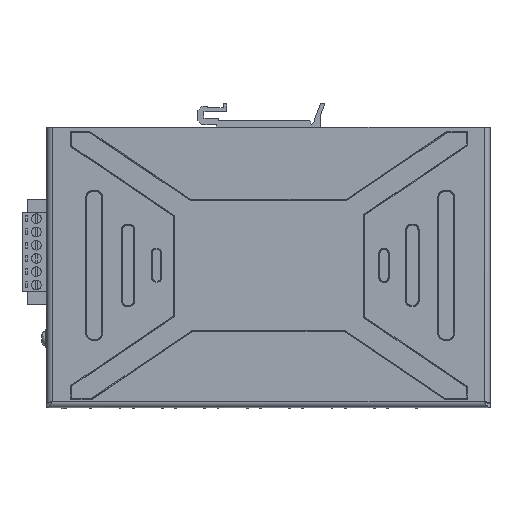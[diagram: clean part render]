
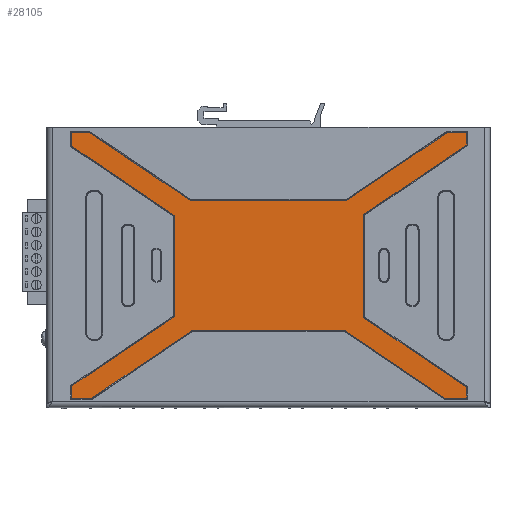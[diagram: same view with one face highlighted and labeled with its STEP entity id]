
A CAD part, top view. The second image highlights one B-rep face of the part: STEP entity #28105.
In plain terms, the highlighted planar face has unit normal (0, 0, 1).
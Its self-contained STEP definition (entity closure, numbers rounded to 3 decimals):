
#4988=DIRECTION('',(-1.,0.,0.));
#4989=VECTOR('',#4988,58.338);
#4990=CARTESIAN_POINT('',(114.169,29.637,-0.5));
#4991=LINE('',#4990,#4989);
#4992=DIRECTION('',(-0.829,-0.56,0.));
#4993=VECTOR('',#4992,46.518);
#4994=CARTESIAN_POINT('',(55.831,29.637,-0.5));
#4995=LINE('',#4994,#4993);
#4996=DIRECTION('',(-1.,0.,0.));
#4997=VECTOR('',#4996,7.645);
#4998=CARTESIAN_POINT('',(17.283,3.6,-0.5));
#4999=LINE('',#4998,#4997);
#5000=DIRECTION('',(0.,1.,0.));
#5001=VECTOR('',#5000,4.657);
#5002=CARTESIAN_POINT('',(9.637,3.6,-0.5));
#5003=LINE('',#5002,#5001);
#5004=DIRECTION('',(0.829,0.56,0.));
#5005=VECTOR('',#5004,47.643);
#5006=CARTESIAN_POINT('',(9.637,8.257,-0.5));
#5007=LINE('',#5006,#5005);
#5008=DIRECTION('',(0.,1.,0.));
#5009=VECTOR('',#5008,38.653);
#5010=CARTESIAN_POINT('',(49.118,34.924,-0.5));
#5011=LINE('',#5010,#5009);
#5012=DIRECTION('',(-0.829,0.56,0.));
#5013=VECTOR('',#5012,47.643);
#5014=CARTESIAN_POINT('',(49.118,73.576,-0.5));
#5015=LINE('',#5014,#5013);
#5016=DIRECTION('',(0.,1.,0.));
#5017=VECTOR('',#5016,5.228);
#5018=CARTESIAN_POINT('',(9.637,100.243,-0.5));
#5019=LINE('',#5018,#5017);
#5020=DIRECTION('',(1.,0.,0.));
#5021=VECTOR('',#5020,6.8);
#5022=CARTESIAN_POINT('',(9.637,105.472,-0.5));
#5023=LINE('',#5022,#5021);
#5024=DIRECTION('',(0.829,-0.56,0.));
#5025=VECTOR('',#5024,46.517);
#5026=CARTESIAN_POINT('',(16.438,105.472,-0.5));
#5027=LINE('',#5026,#5025);
#5028=DIRECTION('',(1.,0.,0.));
#5029=VECTOR('',#5028,60.03);
#5030=CARTESIAN_POINT('',(54.985,79.434,-0.5));
#5031=LINE('',#5030,#5029);
#5032=DIRECTION('',(0.829,0.56,0.));
#5033=VECTOR('',#5032,46.517);
#5034=CARTESIAN_POINT('',(115.015,79.434,-0.5));
#5035=LINE('',#5034,#5033);
#5036=DIRECTION('',(1.,0.,0.));
#5037=VECTOR('',#5036,7.475);
#5038=CARTESIAN_POINT('',(153.562,105.472,-0.5));
#5039=LINE('',#5038,#5037);
#5040=DIRECTION('',(0.,-1.,0.));
#5041=VECTOR('',#5040,4.772);
#5042=CARTESIAN_POINT('',(161.037,105.472,-0.5));
#5043=LINE('',#5042,#5041);
#5044=DIRECTION('',(-0.829,-0.56,0.));
#5045=VECTOR('',#5044,47.643);
#5046=CARTESIAN_POINT('',(161.037,100.699,-0.5));
#5047=LINE('',#5046,#5045);
#5048=DIRECTION('',(0.,-1.,0.));
#5049=VECTOR('',#5048,39.564);
#5050=CARTESIAN_POINT('',(121.557,74.032,-0.5));
#5051=LINE('',#5050,#5049);
#5052=DIRECTION('',(0.829,-0.56,0.));
#5053=VECTOR('',#5052,47.643);
#5054=CARTESIAN_POINT('',(121.557,34.468,-0.5));
#5055=LINE('',#5054,#5053);
#5056=DIRECTION('',(0.,-1.,0.));
#5057=VECTOR('',#5056,4.201);
#5058=CARTESIAN_POINT('',(161.037,7.801,-0.5));
#5059=LINE('',#5058,#5057);
#5060=DIRECTION('',(-1.,0.,0.));
#5061=VECTOR('',#5060,8.32);
#5062=CARTESIAN_POINT('',(161.037,3.6,-0.5));
#5063=LINE('',#5062,#5061);
#5064=DIRECTION('',(-0.829,0.56,0.));
#5065=VECTOR('',#5064,46.518);
#5066=CARTESIAN_POINT('',(152.717,3.6,-0.5));
#5067=LINE('',#5066,#5065);
#20423=CARTESIAN_POINT('',(114.169,29.637,-0.5));
#20424=CARTESIAN_POINT('',(55.831,29.637,-0.5));
#20425=VERTEX_POINT('',#20423);
#20426=VERTEX_POINT('',#20424);
#20429=CARTESIAN_POINT('',(17.283,3.6,-0.5));
#20430=VERTEX_POINT('',#20429);
#20433=CARTESIAN_POINT('',(9.637,3.6,-0.5));
#20434=VERTEX_POINT('',#20433);
#20437=CARTESIAN_POINT('',(9.637,8.257,-0.5));
#20438=VERTEX_POINT('',#20437);
#20441=CARTESIAN_POINT('',(49.118,34.924,-0.5));
#20442=VERTEX_POINT('',#20441);
#20445=CARTESIAN_POINT('',(49.118,73.576,-0.5));
#20446=VERTEX_POINT('',#20445);
#20449=CARTESIAN_POINT('',(9.637,100.243,-0.5));
#20450=VERTEX_POINT('',#20449);
#20453=CARTESIAN_POINT('',(9.637,105.472,-0.5));
#20454=VERTEX_POINT('',#20453);
#20457=CARTESIAN_POINT('',(16.438,105.472,-0.5));
#20458=VERTEX_POINT('',#20457);
#20461=CARTESIAN_POINT('',(54.985,79.434,-0.5));
#20462=VERTEX_POINT('',#20461);
#20465=CARTESIAN_POINT('',(115.015,79.434,-0.5));
#20466=VERTEX_POINT('',#20465);
#20469=CARTESIAN_POINT('',(153.562,105.472,-0.5));
#20470=VERTEX_POINT('',#20469);
#20473=CARTESIAN_POINT('',(161.037,105.472,-0.5));
#20474=VERTEX_POINT('',#20473);
#20477=CARTESIAN_POINT('',(161.037,100.699,-0.5));
#20478=VERTEX_POINT('',#20477);
#20481=CARTESIAN_POINT('',(121.557,74.032,-0.5));
#20482=VERTEX_POINT('',#20481);
#20485=CARTESIAN_POINT('',(121.557,34.468,-0.5));
#20486=VERTEX_POINT('',#20485);
#20489=CARTESIAN_POINT('',(161.037,7.801,-0.5));
#20490=VERTEX_POINT('',#20489);
#20493=CARTESIAN_POINT('',(161.037,3.6,-0.5));
#20494=VERTEX_POINT('',#20493);
#20495=CARTESIAN_POINT('',(152.717,3.6,-0.5));
#20496=VERTEX_POINT('',#20495);
#28059=CARTESIAN_POINT('',(0.,0.,-0.5));
#28060=DIRECTION('',(0.,0.,1.));
#28061=DIRECTION('',(-1.,0.,0.));
#28062=AXIS2_PLACEMENT_3D('',#28059,#28060,#28061);
#28063=PLANE('',#28062);
#28065=ORIENTED_EDGE('',*,*,#28064,.T.);
#28067=ORIENTED_EDGE('',*,*,#28066,.T.);
#28069=ORIENTED_EDGE('',*,*,#28068,.T.);
#28071=ORIENTED_EDGE('',*,*,#28070,.T.);
#28073=ORIENTED_EDGE('',*,*,#28072,.T.);
#28075=ORIENTED_EDGE('',*,*,#28074,.T.);
#28077=ORIENTED_EDGE('',*,*,#28076,.T.);
#28079=ORIENTED_EDGE('',*,*,#28078,.T.);
#28081=ORIENTED_EDGE('',*,*,#28080,.T.);
#28083=ORIENTED_EDGE('',*,*,#28082,.T.);
#28085=ORIENTED_EDGE('',*,*,#28084,.T.);
#28087=ORIENTED_EDGE('',*,*,#28086,.T.);
#28089=ORIENTED_EDGE('',*,*,#28088,.T.);
#28091=ORIENTED_EDGE('',*,*,#28090,.T.);
#28093=ORIENTED_EDGE('',*,*,#28092,.T.);
#28095=ORIENTED_EDGE('',*,*,#28094,.T.);
#28097=ORIENTED_EDGE('',*,*,#28096,.T.);
#28099=ORIENTED_EDGE('',*,*,#28098,.T.);
#28101=ORIENTED_EDGE('',*,*,#28100,.T.);
#28102=ORIENTED_EDGE('',*,*,#28049,.T.);
#28103=EDGE_LOOP('',(#28065,#28067,#28069,#28071,#28073,#28075,#28077,#28079,
#28081,#28083,#28085,#28087,#28089,#28091,#28093,#28095,#28097,#28099,#28101,
#28102));
#28104=FACE_OUTER_BOUND('',#28103,.F.);
#28105=ADVANCED_FACE('',(#28104),#28063,.T.);
#28049=EDGE_CURVE('',#20496,#20425,#5067,.T.);
#28064=EDGE_CURVE('',#20425,#20426,#4991,.T.);
#28066=EDGE_CURVE('',#20426,#20430,#4995,.T.);
#28068=EDGE_CURVE('',#20430,#20434,#4999,.T.);
#28070=EDGE_CURVE('',#20434,#20438,#5003,.T.);
#28072=EDGE_CURVE('',#20438,#20442,#5007,.T.);
#28074=EDGE_CURVE('',#20442,#20446,#5011,.T.);
#28076=EDGE_CURVE('',#20446,#20450,#5015,.T.);
#28078=EDGE_CURVE('',#20450,#20454,#5019,.T.);
#28080=EDGE_CURVE('',#20454,#20458,#5023,.T.);
#28082=EDGE_CURVE('',#20458,#20462,#5027,.T.);
#28084=EDGE_CURVE('',#20462,#20466,#5031,.T.);
#28086=EDGE_CURVE('',#20466,#20470,#5035,.T.);
#28088=EDGE_CURVE('',#20470,#20474,#5039,.T.);
#28090=EDGE_CURVE('',#20474,#20478,#5043,.T.);
#28092=EDGE_CURVE('',#20478,#20482,#5047,.T.);
#28094=EDGE_CURVE('',#20482,#20486,#5051,.T.);
#28096=EDGE_CURVE('',#20486,#20490,#5055,.T.);
#28098=EDGE_CURVE('',#20490,#20494,#5059,.T.);
#28100=EDGE_CURVE('',#20494,#20496,#5063,.T.);
